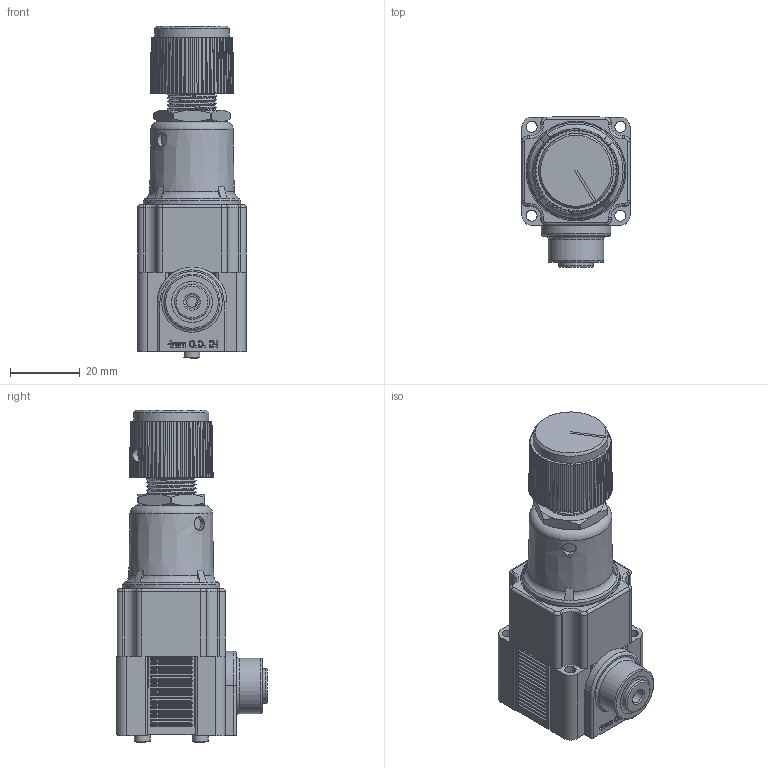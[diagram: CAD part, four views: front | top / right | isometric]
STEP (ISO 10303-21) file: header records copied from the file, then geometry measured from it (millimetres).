
FILE_DESCRIPTION(/* description */ (''),/* implementation_level */ '2;1');
FILE_NAME(/* name */ 'K:\Normteile INVENTOR\Air-Logic\Regulators\R6000\R 6___ 7 Push-In Fitting for 4mm O.D. Tube In.igs.ipt.stp',/* time_stamp */ '2020-05-27T10:57:44+02:00',/* author */ ('Paul'),/* organization */ (''),/* preprocessor_version */ 'ST-DEVELOPER v18',/* originating_system */ 'Autodesk Inventor 2020',/* authorisation */ '');
FILE_SCHEMA (('AUTOMOTIVE_DESIGN { 1 0 10303 214 3 1 1 }'));
Length unit declared in the file: inch
Products named in the file (1): R 6___ 7 Push-In Fitting for 4mm O.D. Tube In.igs
Bounding box: 31.19 x 43.08 x 95.02 mm (x, y, z)
Volume: 58874.2 mm3; surface area: 18121.1 mm2
Topology: 1 solids, 1 shells, 1088 faces, 2827 edges, 1828 vertices
Faces by surface type: plane 548, cylinder 352, cone 83, bspline 69, torus 36
Full cylindrical faces by diameter (mm): 1.194 x1, 2.032 x1, 3.073 x1, 3.124 x2, 3.175 x8, 3.988 x1, 4.064 x1, 4.089 x1, 4.521 x2, 6.045 x1, 8.382 x2, 9.169 x1, 9.398 x1, 9.906 x1, 11.735 x1, 12.903 x1, 15.85 x1, 19.406 x1, 21.476 x1, 27.94 x1, 28.575 x1
Entity records: 39954 total; most frequent: CARTESIAN_POINT 11844, DIRECTION 5726, ORIENTED_EDGE 5654, EDGE_CURVE 2827, AXIS2_PLACEMENT_3D 2158, VERTEX_POINT 1828, LINE 1410, VECTOR 1410
